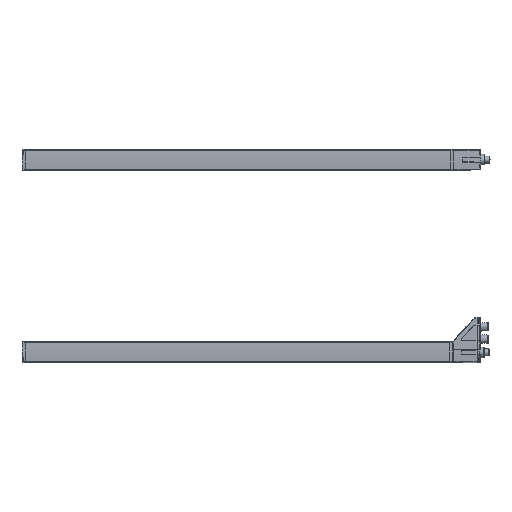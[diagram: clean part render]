
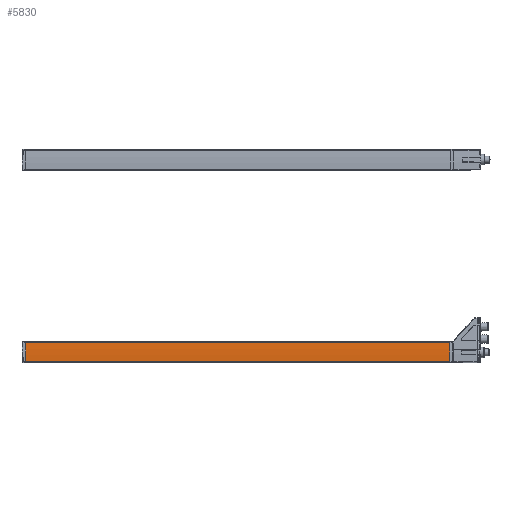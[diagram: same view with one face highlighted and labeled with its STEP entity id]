
A CAD part, left-side view. The second image highlights one B-rep face of the part: STEP entity #5830.
In plain terms, the highlighted cylindrical face has radius 250 mm (diameter 500 mm), a partial arc.
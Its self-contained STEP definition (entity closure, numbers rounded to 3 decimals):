
#5239=CYLINDRICAL_SURFACE('',#43258,250.);
#5830=ADVANCED_FACE('',(#9198),#5239,.T.);
#9198=FACE_OUTER_BOUND('',#11350,.T.);
#11350=EDGE_LOOP('',(#15797,#15798,#15799,#15800));
#14063=CIRCLE('',#43168,250.);
#14110=CIRCLE('',#43257,250.);
#15797=ORIENTED_EDGE('',*,*,#31576,.T.);
#15798=ORIENTED_EDGE('',*,*,#31700,.F.);
#15799=ORIENTED_EDGE('',*,*,#31701,.T.);
#15800=ORIENTED_EDGE('',*,*,#31698,.F.);
#27648=VERTEX_POINT('',#57020);
#27649=VERTEX_POINT('',#57022);
#27730=VERTEX_POINT('',#57266);
#27731=VERTEX_POINT('',#57270);
#31576=EDGE_CURVE('',#27649,#27648,#14063,.T.);
#31698=EDGE_CURVE('',#27649,#27730,#37677,.T.);
#31700=EDGE_CURVE('',#27731,#27648,#37678,.T.);
#31701=EDGE_CURVE('',#27731,#27730,#14110,.T.);
#37677=LINE('',#57265,#40394);
#37678=LINE('',#57269,#40395);
#40394=VECTOR('',#47083,1.);
#40395=VECTOR('',#47088,1.);
#43168=AXIS2_PLACEMENT_3D('',#57021,#46833,#46834);
#43257=AXIS2_PLACEMENT_3D('',#57271,#47089,#47090);
#43258=AXIS2_PLACEMENT_3D('',#57272,#47091,#47092);
#46833=DIRECTION('',(0.,0.,1.));
#46834=DIRECTION('',(-1.,0.,0.));
#47083=DIRECTION('',(0.,0.,1.));
#47088=DIRECTION('',(0.,0.,-1.));
#47089=DIRECTION('',(0.,0.,-1.));
#47090=DIRECTION('',(-0.998,0.067,0.));
#47091=DIRECTION('',(0.,0.,-1.));
#47092=DIRECTION('',(0.998,-0.067,0.));
#57020=CARTESIAN_POINT('',(13.731,16.86,-720.));
#57021=CARTESIAN_POINT('',(-235.7,0.,-720.));
#57022=CARTESIAN_POINT('',(13.793,-15.907,-720.));
#57265=CARTESIAN_POINT('',(13.793,-15.907,-452.));
#57266=CARTESIAN_POINT('',(13.793,-15.907,0.));
#57269=CARTESIAN_POINT('',(13.731,16.86,0.));
#57270=CARTESIAN_POINT('',(13.731,16.86,0.));
#57271=CARTESIAN_POINT('',(-235.7,0.,0.));
#57272=CARTESIAN_POINT('',(-235.7,0.,0.));
